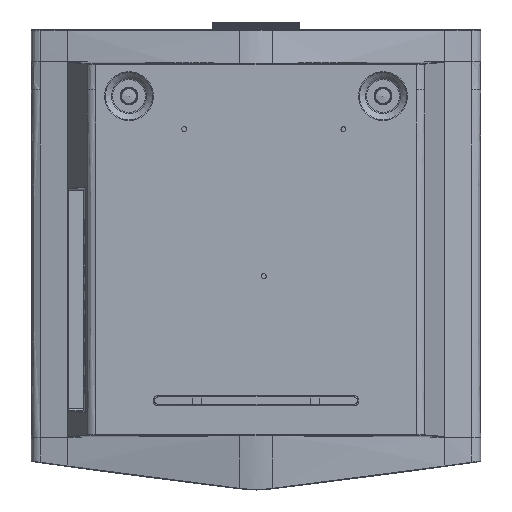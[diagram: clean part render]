
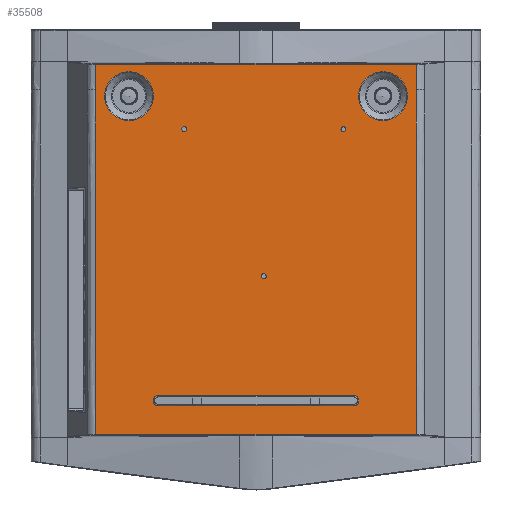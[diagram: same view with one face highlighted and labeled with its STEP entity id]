
A CAD part, front view. The second image highlights one B-rep face of the part: STEP entity #35508.
In plain terms, the highlighted planar face has unit normal (0, -1, 0).
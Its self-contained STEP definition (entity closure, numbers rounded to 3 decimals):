
#21334=LINE('',#156530,#23685);
#21337=LINE('',#156578,#23688);
#21340=LINE('',#156586,#23691);
#21357=LINE('',#157354,#23708);
#21361=LINE('',#157443,#23712);
#21362=LINE('',#157476,#23713);
#21363=LINE('',#157478,#23714);
#21364=LINE('',#157480,#23715);
#23685=VECTOR('',#85462,1.);
#23688=VECTOR('',#85469,1.);
#23691=VECTOR('',#85478,1.);
#23708=VECTOR('',#85523,1.);
#23712=VECTOR('',#85527,1.);
#23713=VECTOR('',#85528,1.);
#23714=VECTOR('',#85529,1.);
#23715=VECTOR('',#85530,1.);
#28520=PLANE('',#77531);
#35508=ADVANCED_FACE('',(#38333,#38334,#38335,#38336,#38337,#38338,#38339),
#28520,.T.);
#38333=FACE_BOUND('',#40597,.T.);
#38334=FACE_BOUND('',#40598,.T.);
#38335=FACE_BOUND('',#40599,.T.);
#38336=FACE_BOUND('',#40600,.T.);
#38337=FACE_BOUND('',#40601,.T.);
#38338=FACE_BOUND('',#40602,.T.);
#38339=FACE_BOUND('',#40603,.T.);
#40597=EDGE_LOOP('',(#52334));
#40598=EDGE_LOOP('',(#52335));
#40599=EDGE_LOOP('',(#52336));
#40600=EDGE_LOOP('',(#52337,#52338,#52339,#52340));
#40601=EDGE_LOOP('',(#52341,#52342,#52343,#52344,#52345,#52346));
#40602=EDGE_LOOP('',(#52347));
#40603=EDGE_LOOP('',(#52348));
#52334=ORIENTED_EDGE('',*,*,#69878,.F.);
#52335=ORIENTED_EDGE('',*,*,#64743,.F.);
#52336=ORIENTED_EDGE('',*,*,#69877,.F.);
#52337=ORIENTED_EDGE('',*,*,#69876,.F.);
#52338=ORIENTED_EDGE('',*,*,#69874,.F.);
#52339=ORIENTED_EDGE('',*,*,#69872,.F.);
#52340=ORIENTED_EDGE('',*,*,#69870,.F.);
#52341=ORIENTED_EDGE('',*,*,#69926,.T.);
#52342=ORIENTED_EDGE('',*,*,#69867,.T.);
#52343=ORIENTED_EDGE('',*,*,#69919,.T.);
#52344=ORIENTED_EDGE('',*,*,#69925,.T.);
#52345=ORIENTED_EDGE('',*,*,#69927,.T.);
#52346=ORIENTED_EDGE('',*,*,#69928,.T.);
#52347=ORIENTED_EDGE('',*,*,#69865,.F.);
#52348=ORIENTED_EDGE('',*,*,#69864,.F.);
#59125=VERTEX_POINT('',#89692);
#62468=VERTEX_POINT('',#156308);
#62472=VERTEX_POINT('',#156523);
#62473=VERTEX_POINT('',#156526);
#62475=VERTEX_POINT('',#156531);
#62476=VERTEX_POINT('',#156573);
#62477=VERTEX_POINT('',#156575);
#62478=VERTEX_POINT('',#156579);
#62479=VERTEX_POINT('',#156583);
#62480=VERTEX_POINT('',#156589);
#62481=VERTEX_POINT('',#156592);
#62507=VERTEX_POINT('',#157353);
#62510=VERTEX_POINT('',#157442);
#62511=VERTEX_POINT('',#157477);
#62512=VERTEX_POINT('',#157479);
#64743=EDGE_CURVE('',#59125,#59125,#73300,.T.);
#69864=EDGE_CURVE('',#62472,#62472,#74300,.T.);
#69865=EDGE_CURVE('',#62473,#62473,#74301,.T.);
#69867=EDGE_CURVE('',#62475,#62468,#21334,.T.);
#69870=EDGE_CURVE('',#62476,#62477,#74302,.T.);
#69872=EDGE_CURVE('',#62477,#62478,#21337,.T.);
#69874=EDGE_CURVE('',#62478,#62479,#74303,.T.);
#69876=EDGE_CURVE('',#62479,#62476,#21340,.T.);
#69877=EDGE_CURVE('',#62480,#62480,#74304,.T.);
#69878=EDGE_CURVE('',#62481,#62481,#74305,.T.);
#69919=EDGE_CURVE('',#62468,#62507,#21357,.T.);
#69925=EDGE_CURVE('',#62507,#62510,#21361,.T.);
#69926=EDGE_CURVE('',#62511,#62475,#21362,.T.);
#69927=EDGE_CURVE('',#62510,#62512,#21363,.T.);
#69928=EDGE_CURVE('',#62512,#62511,#21364,.T.);
#73300=CIRCLE('',#74961,2.5);
#74300=CIRCLE('',#77508,24.879);
#74301=CIRCLE('',#77510,24.879);
#74302=CIRCLE('',#77512,5.3);
#74303=CIRCLE('',#77515,5.3);
#74304=CIRCLE('',#77518,2.5);
#74305=CIRCLE('',#77520,2.5);
#74961=AXIS2_PLACEMENT_3D('',#89691,#79060,#79061);
#77508=AXIS2_PLACEMENT_3D('',#156522,#85453,#85454);
#77510=AXIS2_PLACEMENT_3D('',#156525,#85457,#85458);
#77512=AXIS2_PLACEMENT_3D('',#156574,#85464,#85465);
#77515=AXIS2_PLACEMENT_3D('',#156582,#85473,#85474);
#77518=AXIS2_PLACEMENT_3D('',#156588,#85481,#85482);
#77520=AXIS2_PLACEMENT_3D('',#156591,#85485,#85486);
#77531=AXIS2_PLACEMENT_3D('',#157481,#85531,#85532);
#79060=DIRECTION('',(0.,-1.,0.));
#79061=DIRECTION('',(0.,0.,-1.));
#85453=DIRECTION('',(0.,-1.,0.));
#85454=DIRECTION('',(0.,0.,1.));
#85457=DIRECTION('',(0.,-1.,0.));
#85458=DIRECTION('',(0.,0.,1.));
#85462=DIRECTION('',(1.,0.,0.));
#85464=DIRECTION('',(0.,-1.,0.));
#85465=DIRECTION('',(0.,0.,-1.));
#85469=DIRECTION('',(-1.,0.,0.));
#85473=DIRECTION('',(0.,-1.,0.));
#85474=DIRECTION('',(0.,0.,-1.));
#85478=DIRECTION('',(1.,0.,0.));
#85481=DIRECTION('',(0.,-1.,0.));
#85482=DIRECTION('',(0.,0.,-1.));
#85485=DIRECTION('',(0.,-1.,0.));
#85486=DIRECTION('',(0.,0.,-1.));
#85523=DIRECTION('',(0.,0.,1.));
#85527=DIRECTION('',(0.,0.,1.));
#85528=DIRECTION('',(0.,0.,-1.));
#85529=DIRECTION('',(-1.,0.,0.));
#85530=DIRECTION('',(0.,0.,-1.));
#85531=DIRECTION('',(0.,-1.,0.));
#85532=DIRECTION('',(0.,0.,-1.));
#89691=CARTESIAN_POINT('',(-73.5,-111.,68.195));
#89692=CARTESIAN_POINT('',(-73.5,-111.,65.695));
#156308=CARTESIAN_POINT('',(164.226,-111.,-244.526));
#156522=CARTESIAN_POINT('',(-130.,-111.,102.));
#156523=CARTESIAN_POINT('',(-130.,-111.,126.879));
#156525=CARTESIAN_POINT('',(130.,-111.,102.));
#156526=CARTESIAN_POINT('',(130.,-111.,126.879));
#156530=CARTESIAN_POINT('',(-164.226,-111.,-244.526));
#156531=CARTESIAN_POINT('',(-164.226,-111.,-244.526));
#156573=CARTESIAN_POINT('',(100.,-111.,-215.082));
#156574=CARTESIAN_POINT('',(100.,-111.,-209.782));
#156575=CARTESIAN_POINT('',(100.,-111.,-204.482));
#156578=CARTESIAN_POINT('',(-207.71,-111.,-204.482));
#156579=CARTESIAN_POINT('',(-100.,-111.,-204.482));
#156582=CARTESIAN_POINT('',(-100.,-111.,-209.782));
#156583=CARTESIAN_POINT('',(-100.,-111.,-215.082));
#156586=CARTESIAN_POINT('',(-207.71,-111.,-215.082));
#156588=CARTESIAN_POINT('',(89.5,-111.,68.195));
#156589=CARTESIAN_POINT('',(89.5,-111.,65.695));
#156591=CARTESIAN_POINT('',(8.,-111.,-82.405));
#156592=CARTESIAN_POINT('',(8.,-111.,-84.905));
#157353=CARTESIAN_POINT('',(164.226,-111.,108.318));
#157354=CARTESIAN_POINT('',(164.226,-111.,-244.526));
#157442=CARTESIAN_POINT('',(164.226,-111.,134.526));
#157443=CARTESIAN_POINT('',(164.226,-111.,108.318));
#157476=CARTESIAN_POINT('',(-164.226,-111.,108.318));
#157477=CARTESIAN_POINT('',(-164.226,-111.,108.318));
#157478=CARTESIAN_POINT('',(164.226,-111.,134.526));
#157479=CARTESIAN_POINT('',(-164.226,-111.,134.526));
#157480=CARTESIAN_POINT('',(-164.226,-111.,134.526));
#157481=CARTESIAN_POINT('',(-207.71,-111.,172.431));
